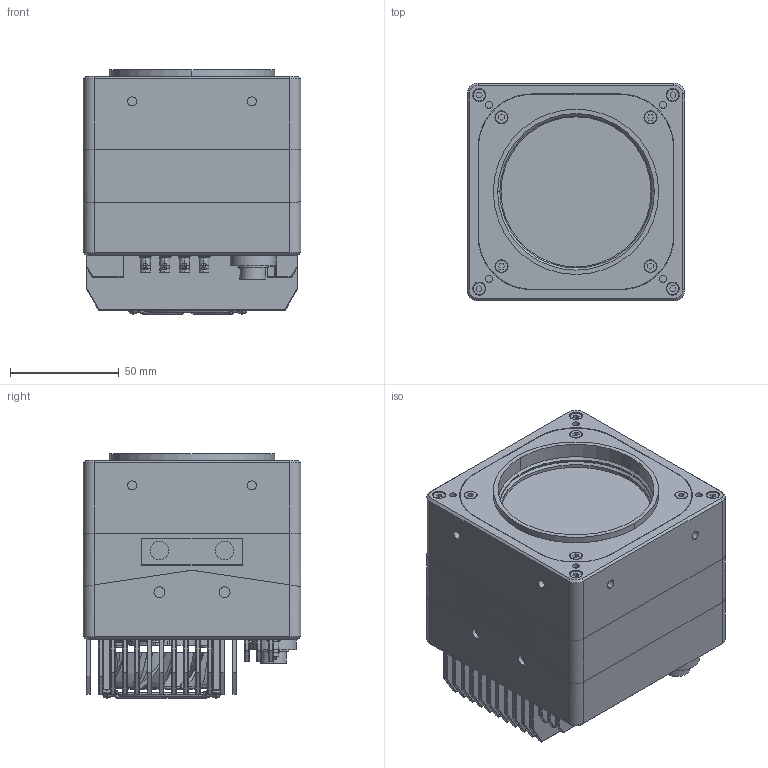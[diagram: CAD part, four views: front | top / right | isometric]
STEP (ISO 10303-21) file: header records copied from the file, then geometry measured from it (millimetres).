
FILE_DESCRIPTION (( 'STEP AP203' ), '1' );
FILE_NAME ('mars_cxp_100_100_user_s1.0.1.STEP', '2023-08-24T09:43:51', ( '' ), ( '' ), 'SwSTEP 2.0', 'SolidWorks 2016', '' );
FILE_SCHEMA (( 'CONFIG_CONTROL_DESIGN' ));
Length unit declared in the file: millimetre
Products named in the file (1): mars_cxp_100_100_user_s1.0.1
Bounding box: 100 x 100 x 112.3 mm (x, y, z)
Volume: 879845.3 mm3; surface area: 244189 mm2
Topology: 39 solids, 46 shells, 2945 faces, 7610 edges, 4815 vertices
Faces by surface type: plane 1325, cylinder 1077, bspline 285, torus 98, cone 85, sphere 75
Entity records: 159015 total; most frequent: CARTESIAN_POINT 89382, ORIENTED_EDGE 15048, DIRECTION 13563, EDGE_CURVE 7524, VERTEX_POINT 4811, AXIS2_PLACEMENT_3D 4719, VECTOR 4125, LINE 4125
